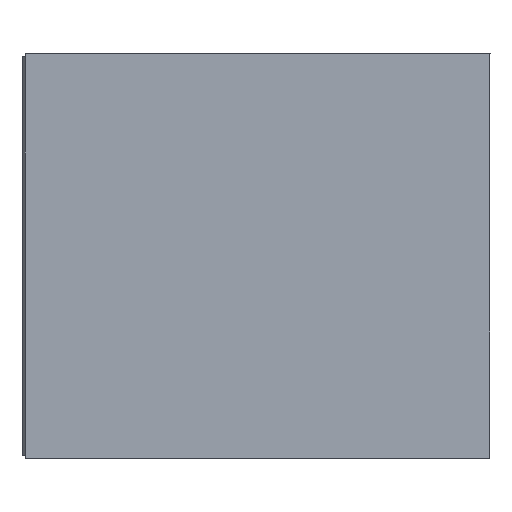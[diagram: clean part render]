
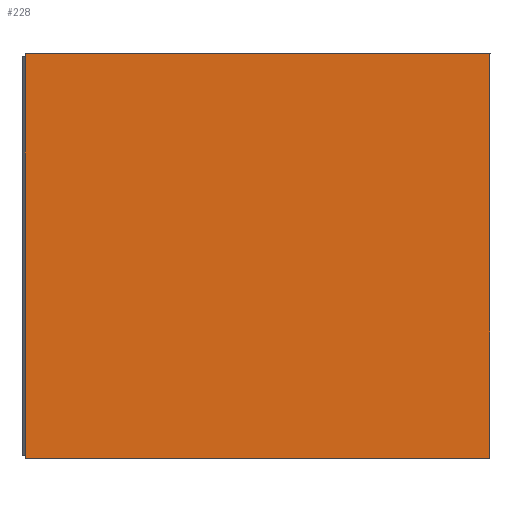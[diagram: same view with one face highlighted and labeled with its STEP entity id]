
A CAD part, left-side view. The second image highlights one B-rep face of the part: STEP entity #228.
In plain terms, the highlighted free-form (B-spline) face has degree [3, 3] with [4, 4] control points.
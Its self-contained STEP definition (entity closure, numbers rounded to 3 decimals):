
#228=ADVANCED_FACE('',(#348),#290,.F.);
#290=B_SPLINE_SURFACE_WITH_KNOTS('',3,3,((#1095,#1096,#1097,#1098),(#1099,
#1100,#1101,#1102),(#1103,#1104,#1105,#1106),(#1107,#1108,#1109,#1110)),
 .UNSPECIFIED.,.F.,.F.,.F.,(4,4),(4,4),(0.,1.),(0.,1.),.UNSPECIFIED.);
#348=FACE_OUTER_BOUND('',#410,.T.);
#410=EDGE_LOOP('',(#472,#473,#474,#475));
#472=ORIENTED_EDGE('',*,*,#850,.F.);
#473=ORIENTED_EDGE('',*,*,#851,.F.);
#474=ORIENTED_EDGE('',*,*,#852,.F.);
#475=ORIENTED_EDGE('',*,*,#853,.F.);
#764=VERTEX_POINT('',#1088);
#765=VERTEX_POINT('',#1089);
#766=VERTEX_POINT('',#1091);
#767=VERTEX_POINT('',#1093);
#850=EDGE_CURVE('',#764,#765,#996,.T.);
#851=EDGE_CURVE('',#766,#764,#997,.T.);
#852=EDGE_CURVE('',#767,#766,#998,.T.);
#853=EDGE_CURVE('',#765,#767,#999,.T.);
#996=LINE('',#1087,#1021);
#997=LINE('',#1090,#1022);
#998=LINE('',#1092,#1023);
#999=LINE('',#1094,#1024);
#1021=VECTOR('',#1053,1.);
#1022=VECTOR('',#1054,1.);
#1023=VECTOR('',#1055,1.);
#1024=VECTOR('',#1056,1.);
#1053=DIRECTION('',(0.,-1.,0.));
#1054=DIRECTION('',(0.,0.,1.));
#1055=DIRECTION('',(0.,1.,0.));
#1056=DIRECTION('',(0.,0.001,-1.));
#1087=CARTESIAN_POINT('',(-21335.942,-168.265,7552.925));
#1088=CARTESIAN_POINT('',(-21339.009,8476.464,7548.977));
#1089=CARTESIAN_POINT('',(-21332.833,-8930.652,7556.927));
#1090=CARTESIAN_POINT('',(-21339.01,8479.028,-2213.66));
#1091=CARTESIAN_POINT('',(-21339.01,8480.444,-7601.234));
#1092=CARTESIAN_POINT('',(-21339.442,9697.342,-7601.682));
#1093=CARTESIAN_POINT('',(-21332.836,-8922.622,-7594.837));
#1094=CARTESIAN_POINT('',(-21332.834,-8926.636,-20.424));
#1095=CARTESIAN_POINT('',(-21335.456,-1536.09,-17836.572));
#1096=CARTESIAN_POINT('',(-21333.503,-7040.809,-11513.089));
#1097=CARTESIAN_POINT('',(-21331.55,-12545.528,-5189.605));
#1098=CARTESIAN_POINT('',(-21329.597,-18050.247,1133.878));
#1099=CARTESIAN_POINT('',(-21337.72,4843.132,-12283.331));
#1100=CARTESIAN_POINT('',(-21335.767,-661.588,-5959.848));
#1101=CARTESIAN_POINT('',(-21333.813,-6166.307,363.636));
#1102=CARTESIAN_POINT('',(-21331.86,-11671.026,6687.119));
#1103=CARTESIAN_POINT('',(-21339.983,11222.353,-6730.09));
#1104=CARTESIAN_POINT('',(-21338.03,5717.634,-406.607));
#1105=CARTESIAN_POINT('',(-21336.077,212.915,5916.877));
#1106=CARTESIAN_POINT('',(-21334.124,-5291.804,12240.36));
#1107=CARTESIAN_POINT('',(-21342.247,17601.575,-1176.849));
#1108=CARTESIAN_POINT('',(-21340.293,12096.855,5146.634));
#1109=CARTESIAN_POINT('',(-21338.34,6592.136,11470.118));
#1110=CARTESIAN_POINT('',(-21336.387,1087.417,17793.601));
